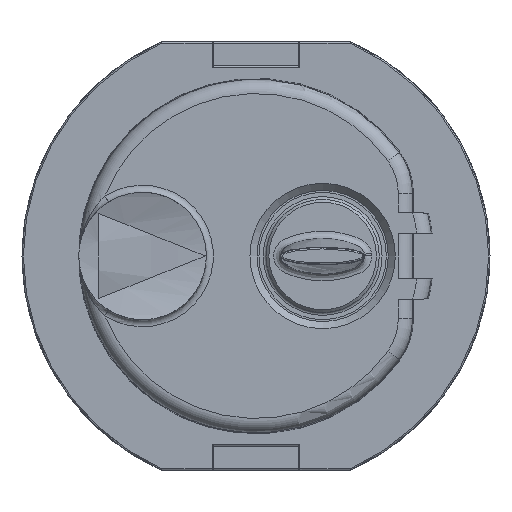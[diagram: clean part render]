
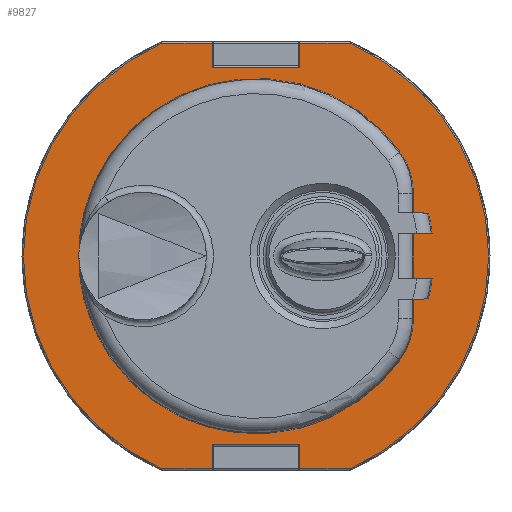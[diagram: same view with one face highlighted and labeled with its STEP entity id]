
A CAD part, front view. The second image highlights one B-rep face of the part: STEP entity #9827.
In plain terms, the highlighted planar face has unit normal (0, -1, 0).
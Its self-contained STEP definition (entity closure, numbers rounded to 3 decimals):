
#388=FACE_BOUND('',#1231,.T.);
#424=PLANE('',#10497);
#677=FACE_OUTER_BOUND('',#1230,.T.);
#1230=EDGE_LOOP('',(#6414,#6415,#6416,#6417,#6418,#6419,#6420,#6421,#6422,
#6423,#6424,#6425));
#1231=EDGE_LOOP('',(#6426,#6427,#6428,#6429,#6430,#6431,#6432,#6433,#6434,
#6435,#6436,#6437));
#1782=CIRCLE('',#10425,12.525);
#1824=CIRCLE('',#10498,16.4);
#1825=CIRCLE('',#10499,16.4);
#1826=CIRCLE('',#10500,12.525);
#1827=CIRCLE('',#10501,5.);
#1828=CIRCLE('',#10502,5.);
#1829=CIRCLE('',#10503,12.525);
#2469=LINE('',#17698,#3097);
#2470=LINE('',#17700,#3098);
#2471=LINE('',#17702,#3099);
#2472=LINE('',#17704,#3100);
#2473=LINE('',#17706,#3101);
#2474=LINE('',#17710,#3102);
#2475=LINE('',#17712,#3103);
#2476=LINE('',#17714,#3104);
#2477=LINE('',#17716,#3105);
#2478=LINE('',#17717,#3106);
#2479=LINE('',#17722,#3107);
#2480=LINE('',#17724,#3108);
#2481=LINE('',#17729,#3109);
#2482=LINE('',#17731,#3110);
#2483=LINE('',#17735,#3111);
#2484=LINE('',#17737,#3112);
#2485=LINE('',#17738,#3113);
#3097=VECTOR('',#11724,1.);
#3098=VECTOR('',#11725,1.);
#3099=VECTOR('',#11726,1.);
#3100=VECTOR('',#11727,1.);
#3101=VECTOR('',#11728,1.);
#3102=VECTOR('',#11731,1.);
#3103=VECTOR('',#11732,1.);
#3104=VECTOR('',#11733,1.);
#3105=VECTOR('',#11734,1.);
#3106=VECTOR('',#11735,1.);
#3107=VECTOR('',#11738,1.);
#3108=VECTOR('',#11739,1.);
#3109=VECTOR('',#11744,1.);
#3110=VECTOR('',#11745,1.);
#3111=VECTOR('',#11748,1.);
#3112=VECTOR('',#11749,1.);
#3113=VECTOR('',#11750,1.);
#3780=VERTEX_POINT('',#16714);
#3783=VERTEX_POINT('',#16719);
#3899=VERTEX_POINT('',#17694);
#3900=VERTEX_POINT('',#17695);
#3901=VERTEX_POINT('',#17697);
#3902=VERTEX_POINT('',#17699);
#3903=VERTEX_POINT('',#17701);
#3904=VERTEX_POINT('',#17703);
#3905=VERTEX_POINT('',#17705);
#3906=VERTEX_POINT('',#17707);
#3907=VERTEX_POINT('',#17709);
#3908=VERTEX_POINT('',#17711);
#3909=VERTEX_POINT('',#17713);
#3910=VERTEX_POINT('',#17715);
#3911=VERTEX_POINT('',#17718);
#3912=VERTEX_POINT('',#17719);
#3913=VERTEX_POINT('',#17721);
#3914=VERTEX_POINT('',#17723);
#3915=VERTEX_POINT('',#17726);
#3916=VERTEX_POINT('',#17728);
#3917=VERTEX_POINT('',#17730);
#3918=VERTEX_POINT('',#17732);
#3919=VERTEX_POINT('',#17734);
#3920=VERTEX_POINT('',#17736);
#4762=EDGE_CURVE('',#3783,#3780,#1782,.T.);
#4892=EDGE_CURVE('',#3899,#3900,#1824,.T.);
#4893=EDGE_CURVE('',#3900,#3901,#2469,.T.);
#4894=EDGE_CURVE('',#3901,#3902,#2470,.T.);
#4895=EDGE_CURVE('',#3902,#3903,#2471,.T.);
#4896=EDGE_CURVE('',#3903,#3904,#2472,.T.);
#4897=EDGE_CURVE('',#3904,#3905,#2473,.T.);
#4898=EDGE_CURVE('',#3905,#3906,#1825,.T.);
#4899=EDGE_CURVE('',#3906,#3907,#2474,.T.);
#4900=EDGE_CURVE('',#3907,#3908,#2475,.T.);
#4901=EDGE_CURVE('',#3908,#3909,#2476,.T.);
#4902=EDGE_CURVE('',#3909,#3910,#2477,.T.);
#4903=EDGE_CURVE('',#3910,#3899,#2478,.T.);
#4904=EDGE_CURVE('',#3911,#3912,#1826,.T.);
#4905=EDGE_CURVE('',#3913,#3911,#2479,.T.);
#4906=EDGE_CURVE('',#3913,#3914,#2480,.T.);
#4907=EDGE_CURVE('',#3914,#3780,#1827,.T.);
#4908=EDGE_CURVE('',#3783,#3915,#1828,.T.);
#4909=EDGE_CURVE('',#3916,#3915,#2481,.T.);
#4910=EDGE_CURVE('',#3916,#3917,#2482,.T.);
#4911=EDGE_CURVE('',#3918,#3917,#1829,.T.);
#4912=EDGE_CURVE('',#3919,#3918,#2483,.T.);
#4913=EDGE_CURVE('',#3919,#3920,#2484,.T.);
#4914=EDGE_CURVE('',#3920,#3912,#2485,.T.);
#6414=ORIENTED_EDGE('',*,*,#4892,.T.);
#6415=ORIENTED_EDGE('',*,*,#4893,.T.);
#6416=ORIENTED_EDGE('',*,*,#4894,.T.);
#6417=ORIENTED_EDGE('',*,*,#4895,.T.);
#6418=ORIENTED_EDGE('',*,*,#4896,.T.);
#6419=ORIENTED_EDGE('',*,*,#4897,.T.);
#6420=ORIENTED_EDGE('',*,*,#4898,.T.);
#6421=ORIENTED_EDGE('',*,*,#4899,.T.);
#6422=ORIENTED_EDGE('',*,*,#4900,.T.);
#6423=ORIENTED_EDGE('',*,*,#4901,.T.);
#6424=ORIENTED_EDGE('',*,*,#4902,.T.);
#6425=ORIENTED_EDGE('',*,*,#4903,.T.);
#6426=ORIENTED_EDGE('',*,*,#4904,.F.);
#6427=ORIENTED_EDGE('',*,*,#4905,.F.);
#6428=ORIENTED_EDGE('',*,*,#4906,.T.);
#6429=ORIENTED_EDGE('',*,*,#4907,.T.);
#6430=ORIENTED_EDGE('',*,*,#4762,.F.);
#6431=ORIENTED_EDGE('',*,*,#4908,.T.);
#6432=ORIENTED_EDGE('',*,*,#4909,.F.);
#6433=ORIENTED_EDGE('',*,*,#4910,.T.);
#6434=ORIENTED_EDGE('',*,*,#4911,.F.);
#6435=ORIENTED_EDGE('',*,*,#4912,.F.);
#6436=ORIENTED_EDGE('',*,*,#4913,.T.);
#6437=ORIENTED_EDGE('',*,*,#4914,.T.);
#9827=ADVANCED_FACE('',(#677,#388),#424,.T.);
#10425=AXIS2_PLACEMENT_3D('',#16721,#11556,#11557);
#10497=AXIS2_PLACEMENT_3D('',#17693,#11720,#11721);
#10498=AXIS2_PLACEMENT_3D('',#17696,#11722,#11723);
#10499=AXIS2_PLACEMENT_3D('',#17708,#11729,#11730);
#10500=AXIS2_PLACEMENT_3D('',#17720,#11736,#11737);
#10501=AXIS2_PLACEMENT_3D('',#17725,#11740,#11741);
#10502=AXIS2_PLACEMENT_3D('',#17727,#11742,#11743);
#10503=AXIS2_PLACEMENT_3D('',#17733,#11746,#11747);
#11556=DIRECTION('center_axis',(0.,-1.,0.));
#11557=DIRECTION('ref_axis',(0.,0.,-1.));
#11720=DIRECTION('center_axis',(0.,-1.,0.));
#11721=DIRECTION('ref_axis',(0.,0.,-1.));
#11722=DIRECTION('center_axis',(0.,-1.,0.));
#11723=DIRECTION('ref_axis',(0.,0.,-1.));
#11724=DIRECTION('',(-1.,0.,0.));
#11725=DIRECTION('',(0.,0.,-1.));
#11726=DIRECTION('',(-1.,0.,0.));
#11727=DIRECTION('',(0.,0.,1.));
#11728=DIRECTION('',(-1.,0.,0.));
#11729=DIRECTION('center_axis',(0.,-1.,0.));
#11730=DIRECTION('ref_axis',(0.,0.,-1.));
#11731=DIRECTION('',(1.,0.,0.));
#11732=DIRECTION('',(0.,0.,1.));
#11733=DIRECTION('',(1.,0.,0.));
#11734=DIRECTION('',(0.,0.,-1.));
#11735=DIRECTION('',(1.,0.,0.));
#11736=DIRECTION('center_axis',(0.,-1.,0.));
#11737=DIRECTION('ref_axis',(0.,0.,-1.));
#11738=DIRECTION('',(1.,0.,0.026));
#11739=DIRECTION('',(0.,0.,-1.));
#11740=DIRECTION('center_axis',(0.,1.,0.));
#11741=DIRECTION('ref_axis',(0.,0.,-1.));
#11742=DIRECTION('center_axis',(0.,1.,0.));
#11743=DIRECTION('ref_axis',(0.,0.,-1.));
#11744=DIRECTION('',(0.,0.,1.));
#11745=DIRECTION('',(1.,0.,-0.026));
#11746=DIRECTION('center_axis',(0.,-1.,0.));
#11747=DIRECTION('ref_axis',(0.,0.,-1.));
#11748=DIRECTION('',(1.,0.,0.026));
#11749=DIRECTION('',(0.,0.,-1.));
#11750=DIRECTION('',(1.,0.,-0.026));
#16714=CARTESIAN_POINT('',(10.153,0.6,-7.334));
#16719=CARTESIAN_POINT('',(10.153,0.6,7.334));
#16721=CARTESIAN_POINT('Origin',(0.,0.6,0.));
#17693=CARTESIAN_POINT('Origin',(-12.525,0.6,0.));
#17694=CARTESIAN_POINT('',(6.63,0.6,-15.));
#17695=CARTESIAN_POINT('',(6.63,0.6,15.));
#17696=CARTESIAN_POINT('Origin',(0.,0.6,0.));
#17697=CARTESIAN_POINT('',(3.1,0.6,15.));
#17698=CARTESIAN_POINT('',(-12.525,0.6,15.));
#17699=CARTESIAN_POINT('',(3.1,0.6,13.3));
#17700=CARTESIAN_POINT('',(3.1,0.6,0.));
#17701=CARTESIAN_POINT('',(-3.1,0.6,13.3));
#17702=CARTESIAN_POINT('',(-12.525,0.6,13.3));
#17703=CARTESIAN_POINT('',(-3.1,0.6,15.));
#17704=CARTESIAN_POINT('',(-3.1,0.6,15.1));
#17705=CARTESIAN_POINT('',(-6.63,0.6,15.));
#17706=CARTESIAN_POINT('',(-12.525,0.6,15.));
#17707=CARTESIAN_POINT('',(-6.63,0.6,-15.));
#17708=CARTESIAN_POINT('Origin',(0.,0.6,0.));
#17709=CARTESIAN_POINT('',(-3.1,0.6,-15.));
#17710=CARTESIAN_POINT('',(-12.525,0.6,-15.));
#17711=CARTESIAN_POINT('',(-3.1,0.6,-13.3));
#17712=CARTESIAN_POINT('',(-3.1,0.6,0.));
#17713=CARTESIAN_POINT('',(3.1,0.6,-13.3));
#17714=CARTESIAN_POINT('',(-12.525,0.6,-13.3));
#17715=CARTESIAN_POINT('',(3.1,0.6,-15.));
#17716=CARTESIAN_POINT('',(3.1,0.6,-15.1));
#17717=CARTESIAN_POINT('',(-12.525,0.6,-15.));
#17718=CARTESIAN_POINT('',(12.155,0.6,-3.022));
#17719=CARTESIAN_POINT('',(12.42,0.6,-1.62));
#17720=CARTESIAN_POINT('Origin',(0.,0.6,0.));
#17721=CARTESIAN_POINT('',(11.1,0.6,-3.05));
#17722=CARTESIAN_POINT('',(11.1,0.6,-3.05));
#17723=CARTESIAN_POINT('',(11.1,0.6,-4.406));
#17724=CARTESIAN_POINT('',(11.1,0.6,0.));
#17725=CARTESIAN_POINT('Origin',(6.1,0.6,-4.406));
#17726=CARTESIAN_POINT('',(11.1,0.6,4.406));
#17727=CARTESIAN_POINT('Origin',(6.1,0.6,4.406));
#17728=CARTESIAN_POINT('',(11.1,0.6,3.05));
#17729=CARTESIAN_POINT('',(11.1,0.6,0.));
#17730=CARTESIAN_POINT('',(12.155,0.6,3.022));
#17731=CARTESIAN_POINT('',(-12.429,0.6,3.666));
#17732=CARTESIAN_POINT('',(12.42,0.6,1.62));
#17733=CARTESIAN_POINT('Origin',(0.,0.6,0.));
#17734=CARTESIAN_POINT('',(11.1,0.6,1.585));
#17735=CARTESIAN_POINT('',(11.1,0.6,1.585));
#17736=CARTESIAN_POINT('',(11.1,0.6,-1.585));
#17737=CARTESIAN_POINT('',(11.1,0.6,0.));
#17738=CARTESIAN_POINT('',(-12.55,0.6,-0.966));
